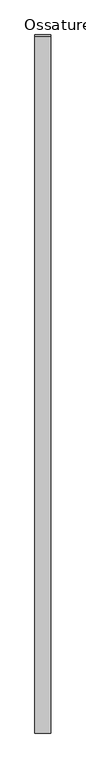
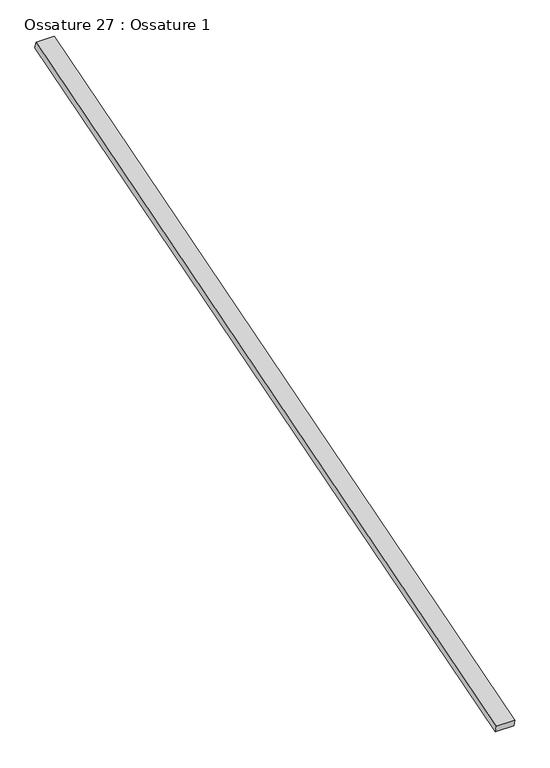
"""IFC4 building model written with IfcOpenShell, lengths in millimetres: beam geometry, Ossature 27 : Ossature 1."""

from ifc_helpers import new_model, si_unit, frame, origin, place, context, project, spatial, polyline, outline, extrude, source, transform, mapped, element, save


def ossature_27_ossature_1_c3516efb(model_context):
    return source(origin(), model_context, "Body", "SweptSolid", [
        extrude(outline(polyline([(0.0, 0.0), (0.0, -4543.0299679), (-100.0, -4543.0299679), (-100.0, 0.0), (0.0, 0.0)])), frame((6736.2466393, -833.3913565, 8153.6336115), z_axis=(0.0, -0.28734788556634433, 0.9578262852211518), x_axis=(-1.0, 0.0, 0.0)), (0.0, 0.0, 1.0), 40.0),
    ])


if __name__ == "__main__":
    model = new_model("IFC4")
    model_context = context("Model", 3, world=origin())
    ifc_project = project(units=[si_unit("LENGTHUNIT", "METRE", prefix="MILLI")], contexts=[model_context])
    site = spatial("IfcSite", under=ifc_project)
    building = spatial("IfcBuilding", under=site)
    placement = place(None, origin())
    ossature_27_ossature_1_shape = ossature_27_ossature_1_c3516efb(model_context)
    element("IfcBeam", 1, ObjectType="Ossature 27 : Ossature 1", at=placement, inside=building, context=model_context, shape_type="MappedRepresentation", body=[
        mapped(ossature_27_ossature_1_shape, transform((0.0, 0.0, 0.0), x_axis=(1.0, 0.0, 0.0), y_axis=(0.0, 1.0, 0.0), z_axis=(0.0, 0.0, 1.0))),
    ])
    save(model, "model.ifc")
